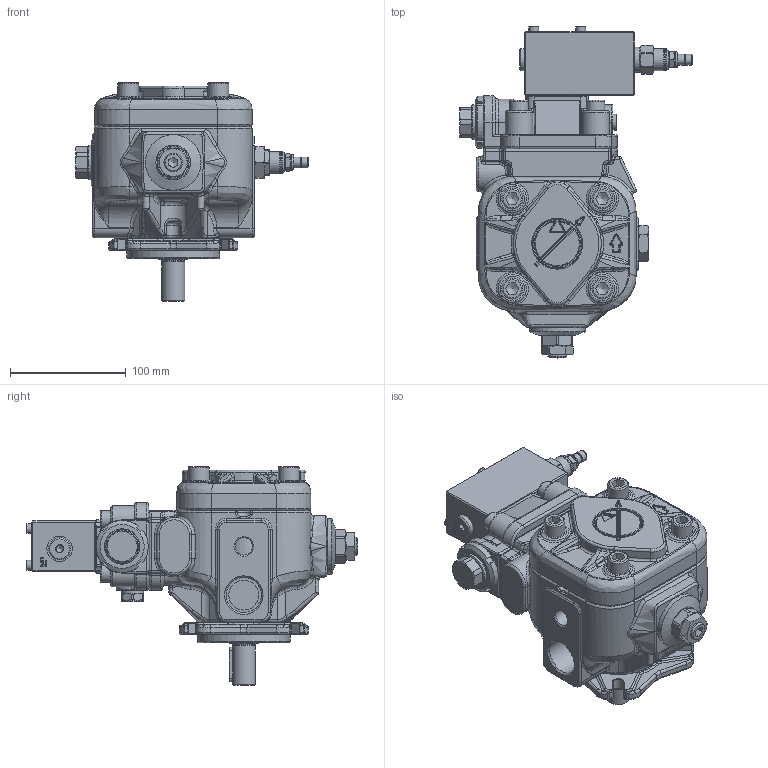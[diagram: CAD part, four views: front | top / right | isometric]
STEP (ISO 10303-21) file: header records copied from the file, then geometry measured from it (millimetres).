
FILE_DESCRIPTION(/* description */ (''),/* implementation_level */ '2;1');
FILE_NAME(/* name */ 'W:\Tecnico\Archivio\Berarma\Dimensioni Pompe\3D Export\Montaggio 3D semplificato\PLP-PHP 05\PHP05 FHRM PCS003.stp',/* time_stamp */ '2018-10-10T15:19:57+02:00',/* author */ ('marcop'),/* organization */ (''),/* preprocessor_version */ 'ST-DEVELOPER v17',/* originating_system */ 'Autodesk Inventor 2018',/* authorisation */ '');
FILE_SCHEMA (('AUTOMOTIVE_DESIGN { 1 0 10303 214 3 1 1 }'));
Products named in the file (1): PHP05_Shrinkwrap_1
Bounding box: 200.95 x 286.6 x 189 mm (x, y, z)
Volume: 2288177.8 mm3; surface area: 243907.8 mm2
Topology: 2 solids, 2 shells, 2316 faces, 5818 edges, 3526 vertices
Faces by surface type: plane 773, cylinder 508, bspline 441, torus 302, cone 237, sphere 55
Full cylindrical faces by diameter (mm): 0.9 x3, 1.7 x4, 2.5 x1, 4 x1, 4.134 x2, 5.5 x2, 6 x3, 6.5 x4, 7.2 x1, 7.671 x2, 8.5 x6, 8.566 x2, 9 x4, 9.347 x2, 9.5 x1, 11.445 x1, 12 x4, 13 x1, 13.487 x1, 13.5 x1, 13.767 x2, 14 x3, 14.224 x1, 14.5 x1, 14.63 x1, 14.95 x1, 15 x1, 15.5 x1, 16 x7, 16.376 x1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
Entity records: 85479 total; most frequent: CARTESIAN_POINT 30567, ORIENTED_EDGE 11436, DIRECTION 10601, EDGE_CURVE 5718, AXIS2_PLACEMENT_3D 4272, VERTEX_POINT 3526, EDGE_LOOP 2444, CIRCLE 2348
